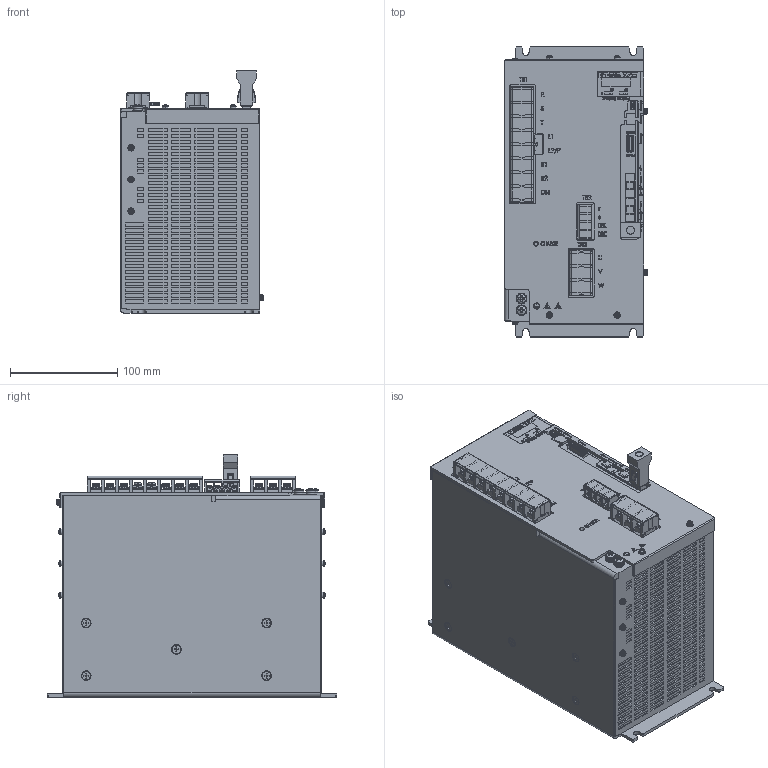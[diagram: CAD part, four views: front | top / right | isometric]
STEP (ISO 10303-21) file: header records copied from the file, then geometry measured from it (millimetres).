
FILE_DESCRIPTION (( 'STEP AP214' ), '1' );
FILE_NAME ('NCR-HB2_332#SE-78540B.STEP', '2020-02-10T06:43:32', ( '' ), ( '' ), 'SwSTEP 2.0', 'SolidWorks 2018', '' );
FILE_SCHEMA (( 'AUTOMOTIVE_DESIGN' ));
Length unit declared in the file: millimetre
Products named in the file (1): NCR-HB2_332#SE-78540B
Bounding box: 133.45 x 270 x 225.7 mm (x, y, z)
Volume: 5981645.9 mm3; surface area: 289543.2 mm2
Topology: 7 solids, 53 shells, 8958 faces, 24128 edges, 15713 vertices
Faces by surface type: plane 6807, cylinder 1082, bspline 699, cone 211, torus 105, sphere 54
Entity records: 411379 total; most frequent: CARTESIAN_POINT 91332, ORIENTED_EDGE 48168, DIRECTION 41602, EDGE_CURVE 24084, LINE 18842, VECTOR 18842, VERTEX_POINT 15713, AXIS2_PLACEMENT_3D 11380
